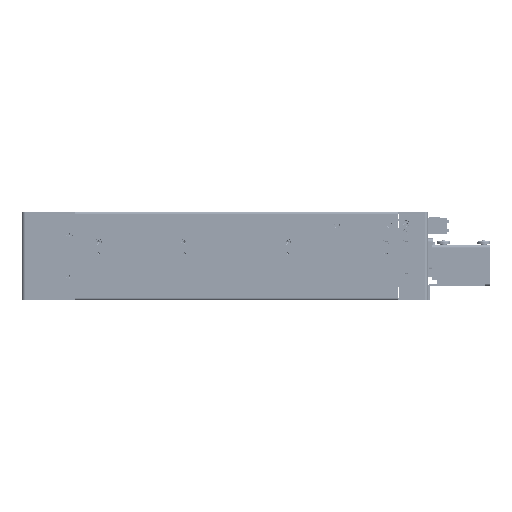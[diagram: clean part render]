
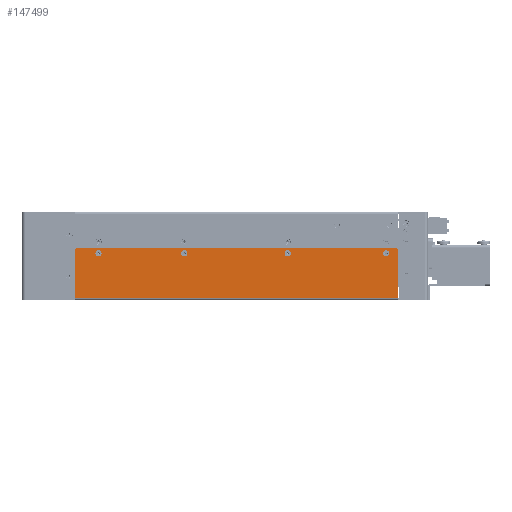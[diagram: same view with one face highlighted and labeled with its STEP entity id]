
A CAD part, front view. The second image highlights one B-rep face of the part: STEP entity #147499.
In plain terms, the highlighted planar face has unit normal (0, -1, 0) as drawn and (0, 1, 0) by its records, which use the part's own axes.
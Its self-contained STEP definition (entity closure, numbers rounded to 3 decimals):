
#7684=FACE_BOUND('',#24379,.T.);
#7685=FACE_BOUND('',#24380,.T.);
#7686=FACE_BOUND('',#24381,.T.);
#7687=FACE_BOUND('',#24382,.T.);
#8961=PLANE('',#156760);
#16502=FACE_OUTER_BOUND('',#24378,.T.);
#24378=EDGE_LOOP('',(#106125,#106126,#106127,#106128,#106129,#106130));
#24379=EDGE_LOOP('',(#106131));
#24380=EDGE_LOOP('',(#106132));
#24381=EDGE_LOOP('',(#106133));
#24382=EDGE_LOOP('',(#106134));
#33480=LINE('',#212214,#50029);
#33486=LINE('',#212230,#50035);
#33510=LINE('',#212320,#50059);
#33512=LINE('',#212327,#50061);
#50029=VECTOR('',#170123,10.);
#50035=VECTOR('',#170139,10.);
#50059=VECTOR('',#170239,10.);
#50061=VECTOR('',#170247,10.);
#66424=CIRCLE('',#156699,2.95);
#66425=CIRCLE('',#156701,2.95);
#66426=CIRCLE('',#156703,2.95);
#66427=CIRCLE('',#156705,2.95);
#66428=CIRCLE('',#156707,2.);
#66431=CIRCLE('',#156713,2.);
#70694=VERTEX_POINT('',#212185);
#70695=VERTEX_POINT('',#212189);
#70696=VERTEX_POINT('',#212193);
#70697=VERTEX_POINT('',#212197);
#70698=VERTEX_POINT('',#212201);
#70699=VERTEX_POINT('',#212202);
#70703=VERTEX_POINT('',#212212);
#70707=VERTEX_POINT('',#212224);
#70708=VERTEX_POINT('',#212228);
#70736=VERTEX_POINT('',#212319);
#84589=EDGE_CURVE('',#70694,#70694,#66424,.T.);
#84591=EDGE_CURVE('',#70695,#70695,#66425,.T.);
#84593=EDGE_CURVE('',#70696,#70696,#66426,.T.);
#84595=EDGE_CURVE('',#70697,#70697,#66427,.T.);
#84597=EDGE_CURVE('',#70698,#70699,#66428,.T.);
#84603=EDGE_CURVE('',#70703,#70698,#33480,.T.);
#84608=EDGE_CURVE('',#70707,#70703,#66431,.T.);
#84611=EDGE_CURVE('',#70708,#70707,#33486,.T.);
#84655=EDGE_CURVE('',#70708,#70736,#33510,.T.);
#84659=EDGE_CURVE('',#70699,#70736,#33512,.T.);
#106125=ORIENTED_EDGE('',*,*,#84597,.F.);
#106126=ORIENTED_EDGE('',*,*,#84603,.F.);
#106127=ORIENTED_EDGE('',*,*,#84608,.F.);
#106128=ORIENTED_EDGE('',*,*,#84611,.F.);
#106129=ORIENTED_EDGE('',*,*,#84655,.T.);
#106130=ORIENTED_EDGE('',*,*,#84659,.F.);
#106131=ORIENTED_EDGE('',*,*,#84589,.T.);
#106132=ORIENTED_EDGE('',*,*,#84591,.T.);
#106133=ORIENTED_EDGE('',*,*,#84593,.T.);
#106134=ORIENTED_EDGE('',*,*,#84595,.T.);
#147499=ADVANCED_FACE('',(#16502,#7684,#7685,#7686,#7687),#8961,.T.);
#156699=AXIS2_PLACEMENT_3D('',#212186,#170093,#170094);
#156701=AXIS2_PLACEMENT_3D('',#212190,#170098,#170099);
#156703=AXIS2_PLACEMENT_3D('',#212194,#170103,#170104);
#156705=AXIS2_PLACEMENT_3D('',#212198,#170108,#170109);
#156707=AXIS2_PLACEMENT_3D('',#212203,#170113,#170114);
#156713=AXIS2_PLACEMENT_3D('',#212225,#170133,#170134);
#156760=AXIS2_PLACEMENT_3D('',#212335,#170259,#170260);
#170093=DIRECTION('center_axis',(0.,-1.,0.));
#170094=DIRECTION('ref_axis',(1.,0.,0.));
#170098=DIRECTION('center_axis',(0.,-1.,0.));
#170099=DIRECTION('ref_axis',(1.,0.,0.));
#170103=DIRECTION('center_axis',(0.,-1.,0.));
#170104=DIRECTION('ref_axis',(1.,0.,0.));
#170108=DIRECTION('center_axis',(0.,-1.,0.));
#170109=DIRECTION('ref_axis',(1.,0.,0.));
#170113=DIRECTION('center_axis',(0.,-1.,0.));
#170114=DIRECTION('ref_axis',(0.707,0.,-0.707));
#170123=DIRECTION('',(1.,0.,0.));
#170133=DIRECTION('center_axis',(0.,-1.,0.));
#170134=DIRECTION('ref_axis',(-0.707,0.,-0.707));
#170139=DIRECTION('',(0.,0.,-1.));
#170239=DIRECTION('',(1.,0.,0.));
#170247=DIRECTION('',(0.,0.,1.));
#170259=DIRECTION('center_axis',(0.,1.,0.));
#170260=DIRECTION('ref_axis',(1.,0.,0.));
#212185=CARTESIAN_POINT('',(-42.7,63.2,-44.5));
#212186=CARTESIAN_POINT('Origin',(-39.75,63.2,-44.5));
#212189=CARTESIAN_POINT('',(148.8,63.2,-44.5));
#212190=CARTESIAN_POINT('Origin',(151.75,63.2,-44.5));
#212193=CARTESIAN_POINT('',(55.3,63.2,-44.5));
#212194=CARTESIAN_POINT('Origin',(58.25,63.2,-44.5));
#212197=CARTESIAN_POINT('',(-124.1,63.2,-44.5));
#212198=CARTESIAN_POINT('Origin',(-121.15,63.2,-44.5));
#212201=CARTESIAN_POINT('',(161.25,63.2,-49.5));
#212202=CARTESIAN_POINT('',(163.25,63.2,-47.5));
#212203=CARTESIAN_POINT('Origin',(161.25,63.2,-47.5));
#212212=CARTESIAN_POINT('',(-141.25,63.2,-49.5));
#212214=CARTESIAN_POINT('',(-143.25,63.2,-49.5));
#212224=CARTESIAN_POINT('',(-143.25,63.2,-47.5));
#212225=CARTESIAN_POINT('Origin',(-141.25,63.2,-47.5));
#212228=CARTESIAN_POINT('',(-143.25,63.2,-2.5));
#212230=CARTESIAN_POINT('',(-143.25,63.2,-2.5));
#212319=CARTESIAN_POINT('',(163.25,63.2,-2.5));
#212320=CARTESIAN_POINT('',(10.,63.2,-2.5));
#212327=CARTESIAN_POINT('',(163.25,63.2,-0.332));
#212335=CARTESIAN_POINT('Origin',(10.,63.2,-24.916));
